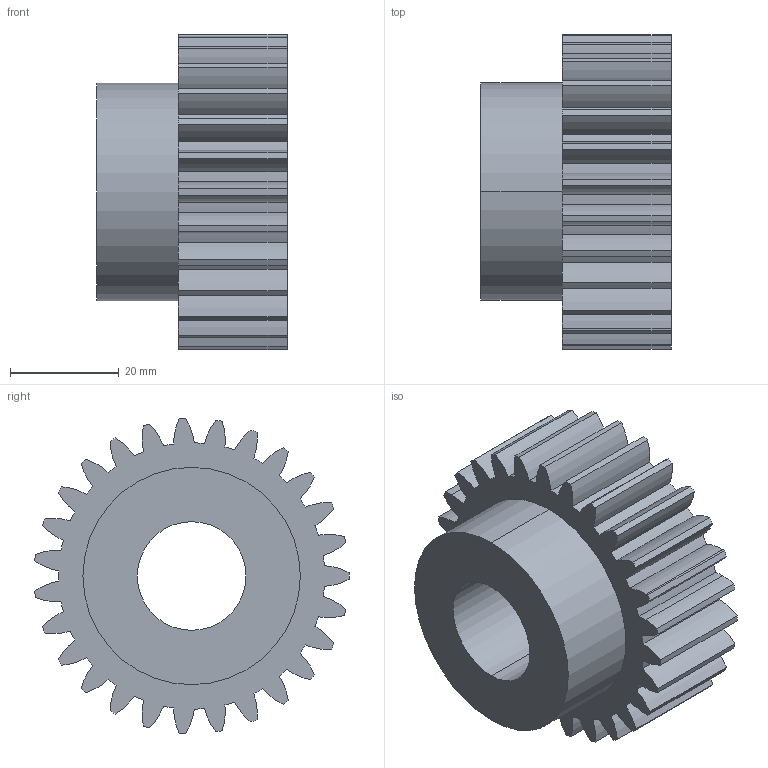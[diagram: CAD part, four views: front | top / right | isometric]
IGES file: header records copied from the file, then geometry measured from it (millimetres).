
Start section: 3D InterOp IGES (v. 2020 1.0.1), Spatial Corp. Copyright (c) 1999-2017.
Global section: file name: p20_w20_t27_b.igs; native system: Spatial Corp.; preprocessor: 3D InterOp ACIS/IGES; author: TraceParts; organization: TraceParts S.A.; date: 20220624.033554; units: millimetre
Bounding box: 35 x 57.87 x 57.96 mm (x, y, z)
Surface area: 14751.1 mm2 (no closed solid volume)
Topology: 0 solids, 0 shells, 123 faces, 720 edges, 720 vertices
Faces by surface type: revolution 120, extrusion 3
